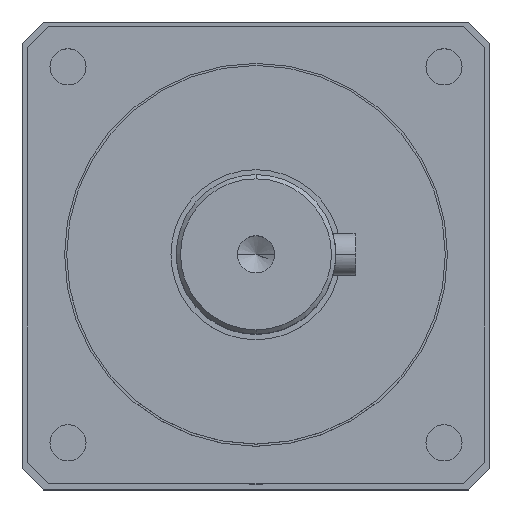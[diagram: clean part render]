
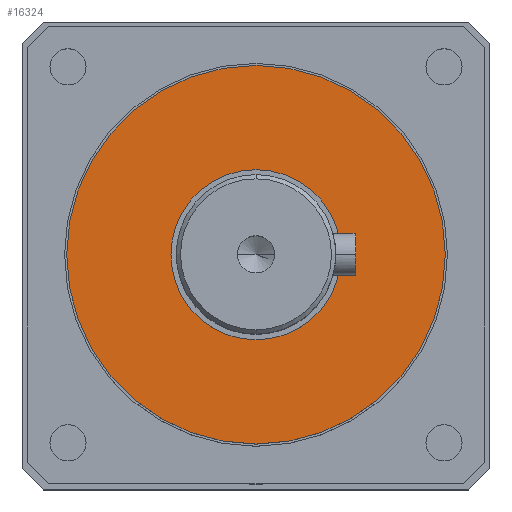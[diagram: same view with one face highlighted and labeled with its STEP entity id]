
A CAD part, top view. The second image highlights one B-rep face of the part: STEP entity #16324.
In plain terms, the highlighted planar face has unit normal (0, 0, 1).
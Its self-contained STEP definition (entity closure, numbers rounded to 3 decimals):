
#13 = AXIS2_PLACEMENT_3D ( 'NONE', #10278, #27683, #12769 ) ;
#577 = EDGE_LOOP ( 'NONE', ( #12406, #28038 ) ) ;
#1954 = EDGE_CURVE ( 'NONE', #18441, #2878, #5594, .T. ) ;
#2182 = AXIS2_PLACEMENT_3D ( 'NONE', #24272, #9395, #26767 ) ;
#2262 = AXIS2_PLACEMENT_3D ( 'NONE', #18510, #3672, #21014 ) ;
#2585 = ORIENTED_EDGE ( 'NONE', *, *, #9996, .T. ) ;
#2878 = VERTEX_POINT ( 'NONE', #18528 ) ;
#3672 = DIRECTION ( 'NONE',  ( 0., 0., -1. ) ) ;
#4791 = PLANE ( 'NONE',  #10137 ) ;
#5594 = CIRCLE ( 'NONE', #13, 89. ) ;
#6207 = CARTESIAN_POINT ( 'NONE',  ( -89., 0., 11. ) ) ;
#6458 = VERTEX_POINT ( 'NONE', #23376 ) ;
#7169 = CIRCLE ( 'NONE', #2262, 40. ) ;
#7263 = DIRECTION ( 'NONE',  ( 0., 0., 1. ) ) ;
#9395 = DIRECTION ( 'NONE',  ( 0., 0., -1. ) ) ;
#9996 = EDGE_CURVE ( 'NONE', #6458, #24260, #7169, .T. ) ;
#10137 = AXIS2_PLACEMENT_3D ( 'NONE', #14455, #7263, #24602 ) ;
#10278 = CARTESIAN_POINT ( 'NONE',  ( 0., 0., 11. ) ) ;
#11979 = FACE_BOUND ( 'NONE', #23941, .T. ) ;
#12406 = ORIENTED_EDGE ( 'NONE', *, *, #30600, .F. ) ;
#12769 = DIRECTION ( 'NONE',  ( 1., 0., 0. ) ) ;
#13808 = DIRECTION ( 'NONE',  ( 0., 0., -1. ) ) ;
#14455 = CARTESIAN_POINT ( 'NONE',  ( 0., 0., 11. ) ) ;
#16324 = ADVANCED_FACE ( 'NONE', ( #11979, #31040 ), #4791, .T. ) ;
#16449 = CIRCLE ( 'NONE', #25182, 89. ) ;
#18441 = VERTEX_POINT ( 'NONE', #6207 ) ;
#18510 = CARTESIAN_POINT ( 'NONE',  ( 0., 0., 11. ) ) ;
#18528 = CARTESIAN_POINT ( 'NONE',  ( 89., 0., 11. ) ) ;
#18895 = ORIENTED_EDGE ( 'NONE', *, *, #20223, .T. ) ;
#20223 = EDGE_CURVE ( 'NONE', #24260, #6458, #26416, .T. ) ;
#21014 = DIRECTION ( 'NONE',  ( -1., 0., 0. ) ) ;
#23376 = CARTESIAN_POINT ( 'NONE',  ( 40., 0., 11. ) ) ;
#23941 = EDGE_LOOP ( 'NONE', ( #18895, #2585 ) ) ;
#24260 = VERTEX_POINT ( 'NONE', #28558 ) ;
#24272 = CARTESIAN_POINT ( 'NONE',  ( 0., 0., 11. ) ) ;
#24602 = DIRECTION ( 'NONE',  ( 1., 0., 0. ) ) ;
#25182 = AXIS2_PLACEMENT_3D ( 'NONE', #28761, #13808, #31222 ) ;
#26416 = CIRCLE ( 'NONE', #2182, 40. ) ;
#26767 = DIRECTION ( 'NONE',  ( -1., 0., 0. ) ) ;
#27683 = DIRECTION ( 'NONE',  ( 0., 0., -1. ) ) ;
#28038 = ORIENTED_EDGE ( 'NONE', *, *, #1954, .F. ) ;
#28558 = CARTESIAN_POINT ( 'NONE',  ( -40., 0., 11. ) ) ;
#28761 = CARTESIAN_POINT ( 'NONE',  ( 0., 0., 11. ) ) ;
#30600 = EDGE_CURVE ( 'NONE', #2878, #18441, #16449, .T. ) ;
#31040 = FACE_OUTER_BOUND ( 'NONE', #577, .T. ) ;
#31222 = DIRECTION ( 'NONE',  ( 1., 0., 0. ) ) ;
